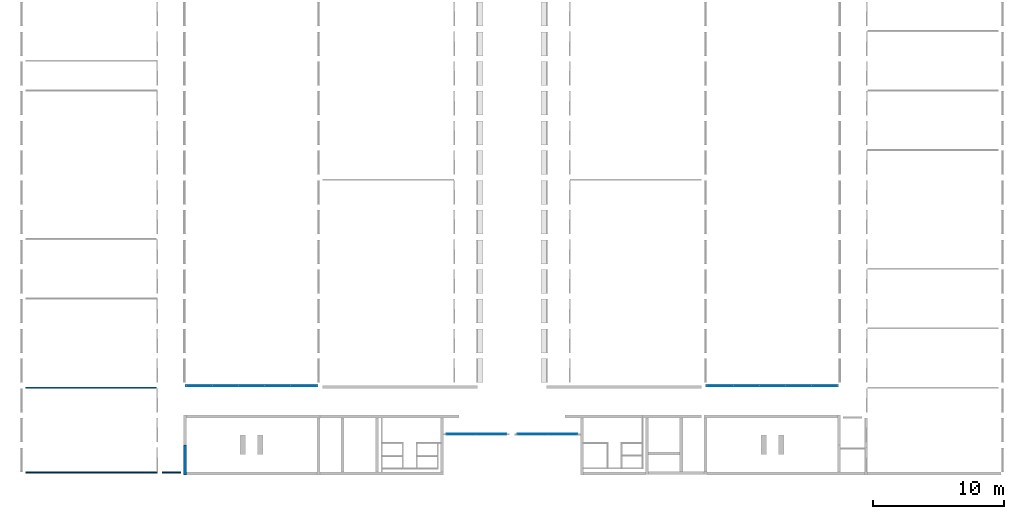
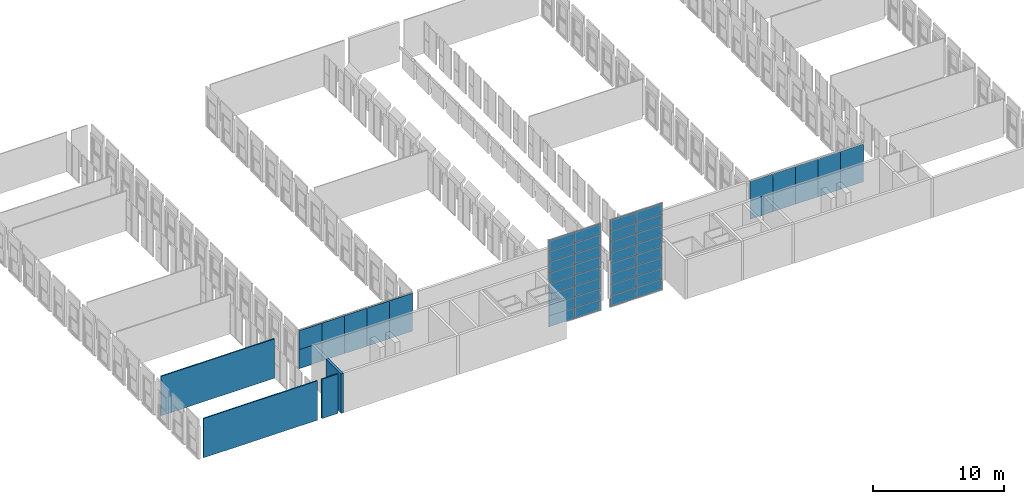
# One storey, part 6 of 16: 52 plates, 4 walls, 4 elements without a shape of their own.
"""IFC2X3 building model written with IfcOpenShell, lengths in millimetres."""

import ifcopenshell
import ifcopenshell.guid

model = None  # the IFC model being written
_history = None  # IfcOwnerHistory: only IFC2X3 demands one
_inside = {}  # id of a spatial element -> (the spatial element, [elements in it])
_under = {}  # id of a project, library or spatial element -> (it, [spatial elements below it])
_declared = {}  # id of a project -> (the project, [libraries it declares])
_typed = {}  # id of a type object -> (the type object, [elements of that type])
_made_of = {}  # id of a material, layer set ... -> (it, [elements and type objects made of it])


def new_model(schema):
    """Start an empty IFC model of exactly this schema.

    Asked for "IFC4X3", IfcOpenShell would pick the latest addendum, in which some entities
    have other attributes; the version numbers below select the first issue.
    IFC2X3 requires an IfcOwnerHistory on every rooted entity: one is made here for all.
    """
    global model, _history
    if schema == "IFC4X3":
        model = ifcopenshell.file(schema_version=(4, 3, 0, 0))
    else:
        model = ifcopenshell.file(schema=schema)
    _inside.clear()
    _under.clear()
    _declared.clear()
    _typed.clear()
    _made_of.clear()
    _history = None
    if model.schema == "IFC2X3":
        org = make("IfcOrganization", Name="unknown")
        user = make(
            "IfcPersonAndOrganization",
            ThePerson=make("IfcPerson", FamilyName="unknown"),
            TheOrganization=org,
        )
        app = make(
            "IfcApplication",
            ApplicationDeveloper=org,
            Version="unknown",
            ApplicationFullName="unknown",
            ApplicationIdentifier="unknown",
        )
        _history = make(
            "IfcOwnerHistory",
            OwningUser=user,
            OwningApplication=app,
            ChangeAction="ADDED",
            CreationDate=0,
        )
    return model


def make(cls, **values):
    """One entity of the class cls with the attributes given. An attribute that is None is left unset."""
    return model.create_entity(
        cls, **{name: value for name, value in values.items() if value is not None}
    )


def entity(cls, *values):
    """Any entity or typed value of the class cls, its attributes in the order of the schema. None: left unset."""
    e = model.create_entity(cls)
    for i, value in enumerate(values):
        if value is not None:
            e[i] = value
    return e


def rooted(cls, **values):
    """An entity with a GlobalId (a new one), such as an element, a storey or a relation."""
    return make(cls, GlobalId=ifcopenshell.guid.new(), OwnerHistory=_history, **values)


def si_unit(unit_type, name, prefix=None):
    """IfcSIUnit, for example si_unit("LENGTHUNIT", "METRE", prefix="MILLI")."""
    return make("IfcSIUnit", UnitType=unit_type, Prefix=prefix, Name=name)


def converted_unit(unit_type, name, factor, base, dimensions=None, offset=None):
    """IfcConversionBasedUnit, such as the inch: factor (a typed value) times the base unit."""
    return make(
        "IfcConversionBasedUnit"
        if offset is None
        else "IfcConversionBasedUnitWithOffset",
        ConversionOffset=offset,
        Dimensions=None
        if dimensions is None
        else entity("IfcDimensionalExponents", *dimensions),
        UnitType=unit_type,
        Name=name,
        ConversionFactor=make(
            "IfcMeasureWithUnit", ValueComponent=factor, UnitComponent=base
        ),
    )


def derived_unit(unit_type, elements):
    """IfcDerivedUnit: a product of units, each with its exponent."""
    return make(
        "IfcDerivedUnit",
        Elements=[
            make("IfcDerivedUnitElement", Unit=unit, Exponent=power)
            for unit, power in elements
        ],
        UnitType=unit_type,
    )


def assignment(units):
    """IfcUnitAssignment: the units of a project."""
    return None if units is None else make("IfcUnitAssignment", Units=units)


def point(xyz):
    """IfcCartesianPoint."""
    return None if xyz is None else make("IfcCartesianPoint", Coordinates=xyz)


def direction(xyz):
    """IfcDirection."""
    return None if xyz is None else make("IfcDirection", DirectionRatios=xyz)


def frame(location, z_axis=None, x_axis=None):
    """IfcAxis2Placement3D, a coordinate frame: its origin and axes. An axis left out is left unset."""
    return make(
        "IfcAxis2Placement3D",
        Location=point(location),
        Axis=direction(z_axis),
        RefDirection=direction(x_axis),
    )


def frame_2d(location, x_axis=None):
    """IfcAxis2Placement2D, a coordinate frame in the plane: its origin and x axis."""
    return make(
        "IfcAxis2Placement2D", Location=point(location), RefDirection=direction(x_axis)
    )


def origin():
    """The frame at (0, 0, 0) with its axes left unset."""
    return frame((0.0, 0.0, 0.0))


def origin_2d_with_axis():
    """The frame at (0, 0) in the plane with the x axis (1, 0) written out."""
    return frame_2d((0.0, 0.0), x_axis=(1.0, 0.0))


def place(relative_to, where):
    """IfcLocalPlacement: puts the frame where relative to a parent placement (None: the world)."""
    return make(
        "IfcLocalPlacement", PlacementRelTo=relative_to, RelativePlacement=where
    )


def context(
    kind, dimensions, precision=None, world=None, true_north=None, identifier=None
):
    """IfcGeometricRepresentationContext, for example the 3D "Model" context."""
    return make(
        "IfcGeometricRepresentationContext",
        ContextIdentifier=identifier,
        ContextType=kind,
        CoordinateSpaceDimension=dimensions,
        Precision=precision,
        WorldCoordinateSystem=world,
        TrueNorth=true_north,
    )


def subcontext(parent, identifier, kind, view, scale=None):
    """IfcGeometricRepresentationSubContext, for example "Body" below "Model"."""
    return make(
        "IfcGeometricRepresentationSubContext",
        ContextIdentifier=identifier,
        ContextType=kind,
        ParentContext=parent,
        TargetScale=scale,
        TargetView=view,
    )


def project(units=None, contexts=None):
    """IfcProject with its units and contexts."""
    return rooted(
        "IfcProject",
        Name="project",
        RepresentationContexts=contexts,
        UnitsInContext=assignment(units),
    )


def spatial(cls, under=None, at=None, **own):
    """A site, building, storey or space (cls), placed at a placement, below another one or the project."""
    s = rooted(cls, ObjectPlacement=at, **own)
    if under is not None:
        _under.setdefault(under.id(), (under, []))[1].append(s)
    return s


def profile(cls, at=None, kind="AREA", **sizes):
    """A parametric profile (cls). Its sizes go by their IFC names, for example OverallWidth=200.0."""
    return make(cls, ProfileType=kind, Position=at, **sizes)


def rectangle(**sizes):
    """IfcRectangleProfileDef."""
    return profile("IfcRectangleProfileDef", **sizes)


def extrude(swept, where, along, depth):
    """IfcExtrudedAreaSolid: the profile swept, set in the frame where, extruded along a direction by depth."""
    return make(
        "IfcExtrudedAreaSolid",
        SweptArea=swept,
        Position=where,
        ExtrudedDirection=direction(along),
        Depth=depth,
    )


def shape(context_of_items, identifier, shape_type, items):
    """IfcShapeRepresentation: the items that make up one representation, for example the "Body"."""
    return make(
        "IfcShapeRepresentation",
        ContextOfItems=context_of_items,
        RepresentationIdentifier=identifier,
        RepresentationType=shape_type,
        Items=items,
    )


def source(mapping_origin, context_of_items, identifier, shape_type, items):
    """IfcRepresentationMap: a shape defined once, which mapped items show again and again."""
    return make(
        "IfcRepresentationMap",
        MappingOrigin=mapping_origin,
        MappedRepresentation=shape(context_of_items, identifier, shape_type, items),
    )


def transform(
    local_origin,
    x_axis=None,
    y_axis=None,
    z_axis=None,
    scale=None,
    scale2=None,
    scale3=None,
    uniform=True,
):
    """IfcCartesianTransformationOperator3D, or its non-uniform kind. x_axis, y_axis, z_axis: its Axis1, 2, 3."""
    if uniform:
        return make(
            "IfcCartesianTransformationOperator3D",
            Axis1=direction(x_axis),
            Axis2=direction(y_axis),
            LocalOrigin=point(local_origin),
            Scale=scale,
            Axis3=direction(z_axis),
        )
    return make(
        "IfcCartesianTransformationOperator3DnonUniform",
        Axis1=direction(x_axis),
        Axis2=direction(y_axis),
        LocalOrigin=point(local_origin),
        Scale=scale,
        Axis3=direction(z_axis),
        Scale2=scale2,
        Scale3=scale3,
    )


def mapped(mapping_source, mapping_target):
    """IfcMappedItem: shows the shape of a source again, moved by a transform."""
    return make(
        "IfcMappedItem", MappingSource=mapping_source, MappingTarget=mapping_target
    )


def material(Name=None, Category=None):
    """IfcMaterial."""
    return make("IfcMaterial", Name=Name, Category=Category)


def layer(
    of_material, thickness, ventilated=None, Name=None, Category=None, Priority=None
):
    """IfcMaterialLayer: one layer of a wall or slab, of a material (None: an air gap)."""
    return make(
        "IfcMaterialLayer",
        Material=of_material,
        LayerThickness=thickness,
        IsVentilated=ventilated,
        Name=Name,
        Category=Category,
        Priority=Priority,
    )


def layer_set(layers, Name=None):
    """IfcMaterialLayerSet."""
    return make("IfcMaterialLayerSet", MaterialLayers=layers, LayerSetName=Name)


def layer_usage(for_layer_set, set_direction, sense, offset, extent=None):
    """IfcMaterialLayerSetUsage: how a layer set lies in its element."""
    return make(
        "IfcMaterialLayerSetUsage",
        ForLayerSet=for_layer_set,
        LayerSetDirection=set_direction,
        DirectionSense=sense,
        OffsetFromReferenceLine=offset,
        ReferenceExtent=extent,
    )


def made_of(thing, what):
    """Note that an element or type object is made of a material, layer set ...; save() writes the relation."""
    if what is not None:
        _made_of.setdefault(what.id(), (what, []))[1].append(thing)
    return thing


def type_object(cls, material=None, **own):
    """A type object (cls), such as IfcWallType, which elements share."""
    return made_of(rooted(cls, **own), material)


def type_shapes(of_type, sources):
    """Give a type object the sources (RepresentationMaps) that its elements show as mapped items."""
    of_type.RepresentationMaps = sources


def element(
    cls,
    number,
    at=None,
    inside=None,
    cuts=None,
    type_object=None,
    material=None,
    context=None,
    identifier="Body",
    shape_type=None,
    held_by="IfcProductDefinitionShape",
    body=None,
    shapes=None,
    **own,
):
    """One element of the class cls, such as IfcWall. Its Tag is "e" and its number.

    at: its placement. inside: the storey or other place that contains it. cuts: it is an
    opening in that element (IfcRelVoidsElement). A single representation is given by context,
    identifier, shape_type and body (its items); several are given by shapes. held_by: the class
    of the entity that holds the representations. save() writes the other relations.
    """
    e = rooted(cls, Tag="e%d" % number, ObjectPlacement=at, **own)
    if body is not None:
        shapes = [shape(context, identifier, shape_type, body)]
    if shapes is not None:
        e.Representation = make(held_by, Representations=shapes)
    if inside is not None:
        _inside.setdefault(inside.id(), (inside, []))[1].append(e)
    if cuts is not None:
        rooted(
            "IfcRelVoidsElement", RelatingBuildingElement=cuts, RelatedOpeningElement=e
        )
    if type_object is not None:
        _typed.setdefault(type_object.id(), (type_object, []))[1].append(e)
    return made_of(e, material)


def aggregate(whole, parts):
    """IfcRelAggregates: a whole, such as a stair, and the parts it consists of."""
    return rooted("IfcRelAggregates", RelatingObject=whole, RelatedObjects=parts)


def save(model, path):
    """Write the relations noted so far, then the file.

    IfcRelAggregates (storeys below a building ...), IfcRelContainedInSpatialStructure (elements
    in a storey), IfcRelDefinesByType, IfcRelAssociatesMaterial and IfcRelDeclares: one each for
    every whole, place, type object, material and project.
    """
    for whole, parts in _under.values():
        aggregate(whole, parts)
    for where, things in _inside.values():
        rooted(
            "IfcRelContainedInSpatialStructure",
            RelatedElements=things,
            RelatingStructure=where,
        )
    for kind, things in _typed.values():
        rooted("IfcRelDefinesByType", RelatedObjects=things, RelatingType=kind)
    for what, things in _made_of.values():
        rooted("IfcRelAssociatesMaterial", RelatedObjects=things, RelatingMaterial=what)
    for by, libraries in _declared.values():
        rooted("IfcRelDeclares", RelatingContext=by, RelatedDefinitions=libraries)
    model.write(path)


model = new_model("IFC2X3")

# Units and contexts
model_context = context("Model", 3, precision=0.01, world=origin(), true_north=direction((6.12303176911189e-17, 1.0)))
body_context = subcontext(model_context, "Body", "Model", "MODEL_VIEW")
ifc_project = project(units=[si_unit("LENGTHUNIT", "METRE", prefix="MILLI"), si_unit("AREAUNIT", "SQUARE_METRE"), si_unit("VOLUMEUNIT", "CUBIC_METRE"), converted_unit("PLANEANGLEUNIT", "DEGREE", entity("IfcRatioMeasure", 0.0174532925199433), si_unit("PLANEANGLEUNIT", "RADIAN"), dimensions=[0, 0, 0, 0, 0, 0, 0]), si_unit("MASSUNIT", "GRAM", prefix="KILO"), derived_unit("MASSDENSITYUNIT", [(si_unit("MASSUNIT", "GRAM", prefix="KILO"), 1), (si_unit("LENGTHUNIT", "METRE"), -3)]), derived_unit("MOMENTOFINERTIAUNIT", [(si_unit("LENGTHUNIT", "METRE"), 4)]), si_unit("TIMEUNIT", "SECOND"), si_unit("FREQUENCYUNIT", "HERTZ"), si_unit("THERMODYNAMICTEMPERATUREUNIT", "DEGREE_CELSIUS"), derived_unit("THERMALTRANSMITTANCEUNIT", [(si_unit("MASSUNIT", "GRAM", prefix="KILO"), 1), (si_unit("THERMODYNAMICTEMPERATUREUNIT", "KELVIN"), -1), (si_unit("TIMEUNIT", "SECOND"), -3)]), derived_unit("VOLUMETRICFLOWRATEUNIT", [(si_unit("LENGTHUNIT", "METRE"), 3), (si_unit("TIMEUNIT", "SECOND"), -1)]), si_unit("ELECTRICCURRENTUNIT", "AMPERE"), si_unit("ELECTRICVOLTAGEUNIT", "VOLT"), si_unit("POWERUNIT", "WATT"), si_unit("FORCEUNIT", "NEWTON", prefix="KILO"), si_unit("ILLUMINANCEUNIT", "LUX"), si_unit("LUMINOUSFLUXUNIT", "LUMEN"), si_unit("LUMINOUSINTENSITYUNIT", "CANDELA"), derived_unit("USERDEFINED", [(si_unit("MASSUNIT", "GRAM", prefix="KILO"), -1), (si_unit("LENGTHUNIT", "METRE"), -2), (si_unit("TIMEUNIT", "SECOND"), 3), (si_unit("LUMINOUSFLUXUNIT", "LUMEN"), 1)]), derived_unit("LINEARVELOCITYUNIT", [(si_unit("LENGTHUNIT", "METRE"), 1), (si_unit("TIMEUNIT", "SECOND"), -1)]), si_unit("PRESSUREUNIT", "PASCAL"), derived_unit("USERDEFINED", [(si_unit("LENGTHUNIT", "METRE"), -2), (si_unit("MASSUNIT", "GRAM", prefix="KILO"), 1), (si_unit("TIMEUNIT", "SECOND"), -2)]), derived_unit("LINEARFORCEUNIT", [(si_unit("MASSUNIT", "GRAM", prefix="KILO"), 1), (si_unit("LENGTHUNIT", "METRE"), 1), (si_unit("TIMEUNIT", "SECOND"), -2), (si_unit("LENGTHUNIT", "METRE"), -1)]), derived_unit("PLANARFORCEUNIT", [(si_unit("MASSUNIT", "GRAM", prefix="KILO"), 1), (si_unit("LENGTHUNIT", "METRE"), 1), (si_unit("TIMEUNIT", "SECOND"), -2), (si_unit("LENGTHUNIT", "METRE"), -2)])], contexts=[model_context])

# Site, building, storey
site_placement = place(None, frame((10627.5135316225, 21939.0796949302, 0.0)))
site = spatial("IfcSite", under=ifc_project, at=site_placement, Name="Default", CompositionType="ELEMENT")
building_placement = place(site_placement, origin())
building = spatial("IfcBuilding", under=site, at=building_placement, CompositionType="ELEMENT")
storey_placement = place(building_placement, frame((0.0, 0.0, 3660.0)))
storey = spatial("IfcBuildingStorey", under=building, at=storey_placement, Name="R+1", CompositionType="ELEMENT", Elevation=3660.0)

# Curtain wall, plates
curtain_wall_type = type_object("IfcCurtainWallType", Name="Curtain Wall:Curtain_Wall-Exterior_Glazing", PredefinedType="NOTDEFINED")
curtain_wall_1_placement = place(storey_placement, frame((0.0, 0.0, -3660.0)))
curtain_wall_1 = element("IfcCurtainWall", 1, at=curtain_wall_1_placement, inside=storey, type_object=curtain_wall_type, Name="Curtain Wall:Curtain_Wall-Exterior_Glazing", ObjectType="Curtain Wall:Curtain_Wall-Exterior_Glazing")
ifc_material_1 = material(Name="Glass")
plate_type_1 = type_object("IfcPlateType", Name="System Panel:Glazed", PredefinedType="CURTAIN_PANEL", material=ifc_material_1)
shared_shape_1 = source(origin(), body_context, "Body", "SweptSolid", [
    extrude(rectangle(XDim=25.0, YDim=1999.00000018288, at=origin_2d_with_axis()), frame((0.0, 37.0, 0.0), z_axis=(0.0, 0.0, 1.0), x_axis=(0.0, 1.0, 0.0)), (0.0, 0.0, 1.0), 1760.0),
])
type_shapes(plate_type_1, [shared_shape_1])
plate_1_placement = place(curtain_wall_1_placement, frame((10747.9864682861, -15159.0796949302, 3660.0), z_axis=(0.0, 0.0, 1.0), x_axis=(-1.0, 0.0, 0.0)))
plate_1 = element("IfcPlate", 2, at=plate_1_placement, type_object=plate_type_1, material=ifc_material_1, Name="System Panel:Glazed", ObjectType="System Panel:Glazed", context=body_context, shape_type="MappedRepresentation", body=[
    mapped(shared_shape_1, transform((0.0, 0.0, 0.0), scale=1.0)),
])
plate_2_placement = place(curtain_wall_1_placement, frame((2796.98646846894, -15159.0796949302, 3660.0), z_axis=(0.0, 0.0, 1.0), x_axis=(-1.0, 0.0, 0.0)))
plate_2 = element("IfcPlate", 3, at=plate_2_placement, type_object=plate_type_1, material=ifc_material_1, Name="System Panel:Glazed", ObjectType="System Panel:Glazed", context=body_context, shape_type="MappedRepresentation", body=[
    mapped(shared_shape_1, transform((0.0, 0.0, 0.0), scale=1.0)),
])
plate_3_placement = place(curtain_wall_1_placement, frame((10747.9864682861, -15159.0796949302, 5420.0), z_axis=(0.0, 0.0, 1.0), x_axis=(-1.0, 0.0, 0.0)))
plate_3 = element("IfcPlate", 4, at=plate_3_placement, type_object=plate_type_1, material=ifc_material_1, Name="System Panel:Glazed", ObjectType="System Panel:Glazed", context=body_context, shape_type="MappedRepresentation", body=[
    mapped(shared_shape_1, transform((0.0, 0.0, 0.0), scale=1.0)),
])
plate_4_placement = place(curtain_wall_1_placement, frame((2796.98646846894, -15159.0796949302, 5420.0), z_axis=(0.0, 0.0, 1.0), x_axis=(-1.0, 0.0, 0.0)))
plate_4 = element("IfcPlate", 5, at=plate_4_placement, type_object=plate_type_1, material=ifc_material_1, Name="System Panel:Glazed", ObjectType="System Panel:Glazed", context=body_context, shape_type="MappedRepresentation", body=[
    mapped(shared_shape_1, transform((0.0, 0.0, 0.0), scale=1.0)),
])
plate_type_2 = type_object("IfcPlateType", Name="System Panel:Glazed", PredefinedType="CURTAIN_PANEL", material=ifc_material_1)
shared_shape_2 = source(origin(), body_context, "Body", "SweptSolid", [
    extrude(rectangle(XDim=25.0, YDim=1983.99999987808, at=origin_2d_with_axis()), frame((0.0, 37.0, 0.0), z_axis=(0.0, 0.0, 1.0), x_axis=(0.0, 1.0, 0.0)), (0.0, 0.0, 1.0), 1760.0),
])
type_shapes(plate_type_2, [shared_shape_2])
plate_5_placement = place(curtain_wall_1_placement, frame((8756.48646825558, -15159.0796949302, 3660.0), z_axis=(0.0, 0.0, 1.0), x_axis=(-1.0, 0.0, 0.0)))
plate_5 = element("IfcPlate", 6, at=plate_5_placement, type_object=plate_type_2, material=ifc_material_1, Name="System Panel:Glazed", ObjectType="System Panel:Glazed", context=body_context, shape_type="MappedRepresentation", body=[
    mapped(shared_shape_2, transform((0.0, 0.0, 0.0), scale=1.0)),
])
plate_6_placement = place(curtain_wall_1_placement, frame((6772.4864683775, -15159.0796949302, 3660.0), z_axis=(0.0, 0.0, 1.0), x_axis=(-1.0, 0.0, 0.0)))
plate_6 = element("IfcPlate", 7, at=plate_6_placement, type_object=plate_type_2, material=ifc_material_1, Name="System Panel:Glazed", ObjectType="System Panel:Glazed", context=body_context, shape_type="MappedRepresentation", body=[
    mapped(shared_shape_2, transform((0.0, 0.0, 0.0), scale=1.0)),
])
plate_7_placement = place(curtain_wall_1_placement, frame((4788.48646849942, -15159.0796949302, 3660.0), z_axis=(0.0, 0.0, 1.0), x_axis=(-1.0, 0.0, 0.0)))
plate_7 = element("IfcPlate", 8, at=plate_7_placement, type_object=plate_type_2, material=ifc_material_1, Name="System Panel:Glazed", ObjectType="System Panel:Glazed", context=body_context, shape_type="MappedRepresentation", body=[
    mapped(shared_shape_2, transform((0.0, 0.0, 0.0), scale=1.0)),
])
plate_8_placement = place(curtain_wall_1_placement, frame((8756.48646825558, -15159.0796949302, 5420.0), z_axis=(0.0, 0.0, 1.0), x_axis=(-1.0, 0.0, 0.0)))
plate_8 = element("IfcPlate", 9, at=plate_8_placement, type_object=plate_type_2, material=ifc_material_1, Name="System Panel:Glazed", ObjectType="System Panel:Glazed", context=body_context, shape_type="MappedRepresentation", body=[
    mapped(shared_shape_2, transform((0.0, 0.0, 0.0), scale=1.0)),
])
plate_9_placement = place(curtain_wall_1_placement, frame((6772.4864683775, -15159.0796949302, 5420.0), z_axis=(0.0, 0.0, 1.0), x_axis=(-1.0, 0.0, 0.0)))
plate_9 = element("IfcPlate", 10, at=plate_9_placement, type_object=plate_type_2, material=ifc_material_1, Name="System Panel:Glazed", ObjectType="System Panel:Glazed", context=body_context, shape_type="MappedRepresentation", body=[
    mapped(shared_shape_2, transform((0.0, 0.0, 0.0), scale=1.0)),
])
plate_10_placement = place(curtain_wall_1_placement, frame((4788.48646849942, -15159.0796949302, 5420.0), z_axis=(0.0, 0.0, 1.0), x_axis=(-1.0, 0.0, 0.0)))
plate_10 = element("IfcPlate", 11, at=plate_10_placement, type_object=plate_type_2, material=ifc_material_1, Name="System Panel:Glazed", ObjectType="System Panel:Glazed", context=body_context, shape_type="MappedRepresentation", body=[
    mapped(shared_shape_2, transform((0.0, 0.0, 0.0), scale=1.0)),
])
aggregate(curtain_wall_1, [plate_1, plate_5, plate_6, plate_7, plate_2, plate_3, plate_8, plate_9, plate_10, plate_4])

curtain_wall_2_placement = place(storey_placement, frame((0.0, 0.0, -3660.0)))
curtain_wall_2 = element("IfcCurtainWall", 12, at=curtain_wall_2_placement, inside=storey, type_object=curtain_wall_type, Name="Curtain Wall:Curtain_Wall-Exterior_Glazing", ObjectType="Curtain Wall:Curtain_Wall-Exterior_Glazing")
plate_type_3 = type_object("IfcPlateType", Name="System Panel:Glazed", PredefinedType="CURTAIN_PANEL", material=ifc_material_1)
shared_shape_3 = source(origin(), body_context, "Body", "SweptSolid", [
    extrude(rectangle(XDim=25.0, YDim=1999.00000018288, at=frame_2d((2.66453525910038e-15, 0.0), x_axis=(1.0, 0.0))), frame((0.0, -37.0, 0.0), z_axis=(0.0, 0.0, 1.0), x_axis=(0.0, 1.0, 0.0)), (0.0, 0.0, 1.0), 1760.0),
])
type_shapes(plate_type_3, [shared_shape_3])
plate_11_placement = place(curtain_wall_2_placement, frame((42406.9864684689, -15159.0796949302, 3660.0)))
plate_11 = element("IfcPlate", 13, at=plate_11_placement, type_object=plate_type_3, material=ifc_material_1, Name="System Panel:Glazed", ObjectType="System Panel:Glazed", context=body_context, shape_type="MappedRepresentation", body=[
    mapped(shared_shape_3, transform((0.0, 0.0, 0.0), scale=1.0)),
])
plate_12_placement = place(curtain_wall_2_placement, frame((50357.986468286, -15159.0796949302, 3660.0)))
plate_12 = element("IfcPlate", 14, at=plate_12_placement, type_object=plate_type_3, material=ifc_material_1, Name="System Panel:Glazed", ObjectType="System Panel:Glazed", context=body_context, shape_type="MappedRepresentation", body=[
    mapped(shared_shape_3, transform((0.0, 0.0, 0.0), scale=1.0)),
])
plate_13_placement = place(curtain_wall_2_placement, frame((42406.9864684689, -15159.0796949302, 5420.0)))
plate_13 = element("IfcPlate", 15, at=plate_13_placement, type_object=plate_type_3, material=ifc_material_1, Name="System Panel:Glazed", ObjectType="System Panel:Glazed", context=body_context, shape_type="MappedRepresentation", body=[
    mapped(shared_shape_3, transform((0.0, 0.0, 0.0), scale=1.0)),
])
plate_14_placement = place(curtain_wall_2_placement, frame((50357.986468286, -15159.0796949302, 5420.0)))
plate_14 = element("IfcPlate", 16, at=plate_14_placement, type_object=plate_type_3, material=ifc_material_1, Name="System Panel:Glazed", ObjectType="System Panel:Glazed", context=body_context, shape_type="MappedRepresentation", body=[
    mapped(shared_shape_3, transform((0.0, 0.0, 0.0), scale=1.0)),
])
plate_type_4 = type_object("IfcPlateType", Name="System Panel:Glazed", PredefinedType="CURTAIN_PANEL", material=ifc_material_1)
shared_shape_4 = source(origin(), body_context, "Body", "SweptSolid", [
    extrude(rectangle(XDim=25.0, YDim=1983.99999987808, at=frame_2d((2.66453525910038e-15, 0.0), x_axis=(1.0, 0.0))), frame((0.0, -37.0, 0.0), z_axis=(0.0, 0.0, 1.0), x_axis=(0.0, 1.0, 0.0)), (0.0, 0.0, 1.0), 1760.0),
])
type_shapes(plate_type_4, [shared_shape_4])
plate_15_placement = place(curtain_wall_2_placement, frame((44398.4864684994, -15159.0796949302, 3660.0)))
plate_15 = element("IfcPlate", 17, at=plate_15_placement, type_object=plate_type_4, material=ifc_material_1, Name="System Panel:Glazed", ObjectType="System Panel:Glazed", context=body_context, shape_type="MappedRepresentation", body=[
    mapped(shared_shape_4, transform((0.0, 0.0, 0.0), scale=1.0)),
])
plate_16_placement = place(curtain_wall_2_placement, frame((46382.4864683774, -15159.0796949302, 3660.0)))
plate_16 = element("IfcPlate", 18, at=plate_16_placement, type_object=plate_type_4, material=ifc_material_1, Name="System Panel:Glazed", ObjectType="System Panel:Glazed", context=body_context, shape_type="MappedRepresentation", body=[
    mapped(shared_shape_4, transform((0.0, 0.0, 0.0), scale=1.0)),
])
plate_17_placement = place(curtain_wall_2_placement, frame((48366.4864682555, -15159.0796949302, 3660.0)))
plate_17 = element("IfcPlate", 19, at=plate_17_placement, type_object=plate_type_4, material=ifc_material_1, Name="System Panel:Glazed", ObjectType="System Panel:Glazed", context=body_context, shape_type="MappedRepresentation", body=[
    mapped(shared_shape_4, transform((0.0, 0.0, 0.0), scale=1.0)),
])
plate_18_placement = place(curtain_wall_2_placement, frame((44398.4864684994, -15159.0796949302, 5420.0)))
plate_18 = element("IfcPlate", 20, at=plate_18_placement, type_object=plate_type_4, material=ifc_material_1, Name="System Panel:Glazed", ObjectType="System Panel:Glazed", context=body_context, shape_type="MappedRepresentation", body=[
    mapped(shared_shape_4, transform((0.0, 0.0, 0.0), scale=1.0)),
])
plate_19_placement = place(curtain_wall_2_placement, frame((46382.4864683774, -15159.0796949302, 5420.0)))
plate_19 = element("IfcPlate", 21, at=plate_19_placement, type_object=plate_type_4, material=ifc_material_1, Name="System Panel:Glazed", ObjectType="System Panel:Glazed", context=body_context, shape_type="MappedRepresentation", body=[
    mapped(shared_shape_4, transform((0.0, 0.0, 0.0), scale=1.0)),
])
plate_20_placement = place(curtain_wall_2_placement, frame((48366.4864682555, -15159.0796949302, 5420.0)))
plate_20 = element("IfcPlate", 22, at=plate_20_placement, type_object=plate_type_4, material=ifc_material_1, Name="System Panel:Glazed", ObjectType="System Panel:Glazed", context=body_context, shape_type="MappedRepresentation", body=[
    mapped(shared_shape_4, transform((0.0, 0.0, 0.0), scale=1.0)),
])
aggregate(curtain_wall_2, [plate_11, plate_15, plate_16, plate_17, plate_12, plate_13, plate_18, plate_19, plate_20, plate_14])

curtain_wall_3_placement = place(storey_placement, frame((0.0, 0.0, -3660.0)))
curtain_wall_3 = element("IfcCurtainWall", 23, at=curtain_wall_3_placement, inside=storey, type_object=curtain_wall_type, Name="Curtain Wall:Curtain_Wall-Exterior_Glazing", ObjectType="Curtain Wall:Curtain_Wall-Exterior_Glazing")
plate_type_5 = type_object("IfcPlateType", Name="System Panel:Glazed", PredefinedType="CURTAIN_PANEL", material=ifc_material_1)
shared_shape_5 = source(origin(), body_context, "Body", "SweptSolid", [
    extrude(rectangle(XDim=25.0, YDim=2260.0, at=origin_2d_with_axis()), frame((0.0, 37.0, 0.0), z_axis=(0.0, 0.0, 1.0), x_axis=(0.0, 1.0, 0.0)), (0.0, 0.0, 1.0), 1015.53377118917),
])
type_shapes(plate_type_5, [shared_shape_5])
plate_21_placement = place(curtain_wall_3_placement, frame((22746.4616023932, -18895.8331484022, 2815.72983048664)))
plate_21 = element("IfcPlate", 24, at=plate_21_placement, type_object=plate_type_5, material=ifc_material_1, Name="System Panel:Glazed", ObjectType="System Panel:Glazed", context=body_context, shape_type="MappedRepresentation", body=[
    mapped(shared_shape_5, transform((0.0, 0.0, 0.0), scale=1.0)),
])
plate_22_placement = place(curtain_wall_3_placement, frame((25006.4616023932, -18895.8331484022, 2815.72983048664)))
plate_22 = element("IfcPlate", 25, at=plate_22_placement, type_object=plate_type_5, material=ifc_material_1, Name="System Panel:Glazed", ObjectType="System Panel:Glazed", context=body_context, shape_type="MappedRepresentation", body=[
    mapped(shared_shape_5, transform((0.0, 0.0, 0.0), scale=1.0)),
])
plate_23_placement = place(curtain_wall_3_placement, frame((22746.4616023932, -18895.8331484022, 9834.46622881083)))
plate_23 = element("IfcPlate", 26, at=plate_23_placement, type_object=plate_type_5, material=ifc_material_1, Name="System Panel:Glazed", ObjectType="System Panel:Glazed", context=body_context, shape_type="MappedRepresentation", body=[
    mapped(shared_shape_5, transform((0.0, 0.0, 0.0), scale=1.0)),
])
plate_24_placement = place(curtain_wall_3_placement, frame((25006.4616023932, -18895.8331484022, 9834.46622881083)))
plate_24 = element("IfcPlate", 27, at=plate_24_placement, type_object=plate_type_5, material=ifc_material_1, Name="System Panel:Glazed", ObjectType="System Panel:Glazed", context=body_context, shape_type="MappedRepresentation", body=[
    mapped(shared_shape_5, transform((0.0, 0.0, 0.0), scale=1.0)),
])
plate_type_6 = type_object("IfcPlateType", Name="System Panel:Glazed", PredefinedType="CURTAIN_PANEL", material=ifc_material_1)
shared_shape_6 = source(origin(), body_context, "Body", "SweptSolid", [
    extrude(rectangle(XDim=25.0, YDim=2260.0, at=origin_2d_with_axis()), frame((0.0, 37.0, 0.0), z_axis=(0.0, 0.0, 1.0), x_axis=(0.0, 1.0, 0.0)), (0.0, 0.0, 1.0), 1000.53377118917),
])
type_shapes(plate_type_6, [shared_shape_6])
plate_25_placement = place(curtain_wall_3_placement, frame((22746.4616023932, -18895.8331484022, 3831.26360167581)))
plate_25 = element("IfcPlate", 28, at=plate_25_placement, type_object=plate_type_6, material=ifc_material_1, Name="System Panel:Glazed", ObjectType="System Panel:Glazed", context=body_context, shape_type="MappedRepresentation", body=[
    mapped(shared_shape_6, transform((0.0, 0.0, 0.0), scale=1.0)),
])
plate_26_placement = place(curtain_wall_3_placement, frame((25006.4616023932, -18895.8331484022, 3831.26360167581)))
plate_26 = element("IfcPlate", 29, at=plate_26_placement, type_object=plate_type_6, material=ifc_material_1, Name="System Panel:Glazed", ObjectType="System Panel:Glazed", context=body_context, shape_type="MappedRepresentation", body=[
    mapped(shared_shape_6, transform((0.0, 0.0, 0.0), scale=1.0)),
])
plate_27_placement = place(curtain_wall_3_placement, frame((22746.4616023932, -18895.8331484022, 4831.79737286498)))
plate_27 = element("IfcPlate", 30, at=plate_27_placement, type_object=plate_type_6, material=ifc_material_1, Name="System Panel:Glazed", ObjectType="System Panel:Glazed", context=body_context, shape_type="MappedRepresentation", body=[
    mapped(shared_shape_6, transform((0.0, 0.0, 0.0), scale=1.0)),
])
plate_28_placement = place(curtain_wall_3_placement, frame((25006.4616023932, -18895.8331484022, 4831.79737286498)))
plate_28 = element("IfcPlate", 31, at=plate_28_placement, type_object=plate_type_6, material=ifc_material_1, Name="System Panel:Glazed", ObjectType="System Panel:Glazed", context=body_context, shape_type="MappedRepresentation", body=[
    mapped(shared_shape_6, transform((0.0, 0.0, 0.0), scale=1.0)),
])
plate_29_placement = place(curtain_wall_3_placement, frame((22746.4616023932, -18895.8331484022, 5832.33114405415)))
plate_29 = element("IfcPlate", 32, at=plate_29_placement, type_object=plate_type_6, material=ifc_material_1, Name="System Panel:Glazed", ObjectType="System Panel:Glazed", context=body_context, shape_type="MappedRepresentation", body=[
    mapped(shared_shape_6, transform((0.0, 0.0, 0.0), scale=1.0)),
])
plate_30_placement = place(curtain_wall_3_placement, frame((25006.4616023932, -18895.8331484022, 5832.33114405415)))
plate_30 = element("IfcPlate", 33, at=plate_30_placement, type_object=plate_type_6, material=ifc_material_1, Name="System Panel:Glazed", ObjectType="System Panel:Glazed", context=body_context, shape_type="MappedRepresentation", body=[
    mapped(shared_shape_6, transform((0.0, 0.0, 0.0), scale=1.0)),
])
plate_31_placement = place(curtain_wall_3_placement, frame((22746.4616023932, -18895.8331484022, 6832.86491524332)))
plate_31 = element("IfcPlate", 34, at=plate_31_placement, type_object=plate_type_6, material=ifc_material_1, Name="System Panel:Glazed", ObjectType="System Panel:Glazed", context=body_context, shape_type="MappedRepresentation", body=[
    mapped(shared_shape_6, transform((0.0, 0.0, 0.0), scale=1.0)),
])
plate_32_placement = place(curtain_wall_3_placement, frame((25006.4616023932, -18895.8331484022, 6832.86491524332)))
plate_32 = element("IfcPlate", 35, at=plate_32_placement, type_object=plate_type_6, material=ifc_material_1, Name="System Panel:Glazed", ObjectType="System Panel:Glazed", context=body_context, shape_type="MappedRepresentation", body=[
    mapped(shared_shape_6, transform((0.0, 0.0, 0.0), scale=1.0)),
])
plate_33_placement = place(curtain_wall_3_placement, frame((22746.4616023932, -18895.8331484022, 7833.39868643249)))
plate_33 = element("IfcPlate", 36, at=plate_33_placement, type_object=plate_type_6, material=ifc_material_1, Name="System Panel:Glazed", ObjectType="System Panel:Glazed", context=body_context, shape_type="MappedRepresentation", body=[
    mapped(shared_shape_6, transform((0.0, 0.0, 0.0), scale=1.0)),
])
plate_34_placement = place(curtain_wall_3_placement, frame((25006.4616023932, -18895.8331484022, 7833.39868643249)))
plate_34 = element("IfcPlate", 37, at=plate_34_placement, type_object=plate_type_6, material=ifc_material_1, Name="System Panel:Glazed", ObjectType="System Panel:Glazed", context=body_context, shape_type="MappedRepresentation", body=[
    mapped(shared_shape_6, transform((0.0, 0.0, 0.0), scale=1.0)),
])
plate_35_placement = place(curtain_wall_3_placement, frame((22746.4616023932, -18895.8331484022, 8833.93245762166)))
plate_35 = element("IfcPlate", 38, at=plate_35_placement, type_object=plate_type_6, material=ifc_material_1, Name="System Panel:Glazed", ObjectType="System Panel:Glazed", context=body_context, shape_type="MappedRepresentation", body=[
    mapped(shared_shape_6, transform((0.0, 0.0, 0.0), scale=1.0)),
])
plate_36_placement = place(curtain_wall_3_placement, frame((25006.4616023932, -18895.8331484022, 8833.93245762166)))
plate_36 = element("IfcPlate", 39, at=plate_36_placement, type_object=plate_type_6, material=ifc_material_1, Name="System Panel:Glazed", ObjectType="System Panel:Glazed", context=body_context, shape_type="MappedRepresentation", body=[
    mapped(shared_shape_6, transform((0.0, 0.0, 0.0), scale=1.0)),
])
aggregate(curtain_wall_3, [plate_21, plate_22, plate_25, plate_26, plate_27, plate_28, plate_29, plate_30, plate_31, plate_32, plate_33, plate_34, plate_35, plate_36, plate_23, plate_24])

curtain_wall_4_placement = place(storey_placement, frame((0.0, 0.0, -3660.0)))
curtain_wall_4 = element("IfcCurtainWall", 40, at=curtain_wall_4_placement, inside=storey, type_object=curtain_wall_type, Name="Curtain Wall:Curtain_Wall-Exterior_Glazing", ObjectType="Curtain Wall:Curtain_Wall-Exterior_Glazing")
plate_type_7 = type_object("IfcPlateType", Name="System Panel:Glazed", PredefinedType="CURTAIN_PANEL", material=ifc_material_1)
shared_shape_7 = source(origin(), body_context, "Body", "SweptSolid", [
    extrude(rectangle(XDim=25.0, YDim=2260.0, at=frame_2d((2.66453525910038e-15, 0.0), x_axis=(1.0, 0.0))), frame((0.0, -37.0, 0.0), z_axis=(0.0, 0.0, 1.0), x_axis=(0.0, 1.0, 0.0)), (0.0, 0.0, 1.0), 1015.53377118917),
])
type_shapes(plate_type_7, [shared_shape_7])
plate_37_placement = place(curtain_wall_4_placement, frame((30408.5113343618, -18895.8331484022, 2815.72983048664), z_axis=(0.0, 0.0, 1.0), x_axis=(-1.0, 0.0, 0.0)))
plate_37 = element("IfcPlate", 41, at=plate_37_placement, type_object=plate_type_7, material=ifc_material_1, Name="System Panel:Glazed", ObjectType="System Panel:Glazed", context=body_context, shape_type="MappedRepresentation", body=[
    mapped(shared_shape_7, transform((0.0, 0.0, 0.0), scale=1.0)),
])
plate_38_placement = place(curtain_wall_4_placement, frame((28148.5113343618, -18895.8331484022, 2815.72983048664), z_axis=(0.0, 0.0, 1.0), x_axis=(-1.0, 0.0, 0.0)))
plate_38 = element("IfcPlate", 42, at=plate_38_placement, type_object=plate_type_7, material=ifc_material_1, Name="System Panel:Glazed", ObjectType="System Panel:Glazed", context=body_context, shape_type="MappedRepresentation", body=[
    mapped(shared_shape_7, transform((0.0, 0.0, 0.0), scale=1.0)),
])
plate_39_placement = place(curtain_wall_4_placement, frame((30408.5113343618, -18895.8331484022, 9834.46622881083), z_axis=(0.0, 0.0, 1.0), x_axis=(-1.0, 0.0, 0.0)))
plate_39 = element("IfcPlate", 43, at=plate_39_placement, type_object=plate_type_7, material=ifc_material_1, Name="System Panel:Glazed", ObjectType="System Panel:Glazed", context=body_context, shape_type="MappedRepresentation", body=[
    mapped(shared_shape_7, transform((0.0, 0.0, 0.0), scale=1.0)),
])
plate_40_placement = place(curtain_wall_4_placement, frame((28148.5113343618, -18895.8331484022, 9834.46622881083), z_axis=(0.0, 0.0, 1.0), x_axis=(-1.0, 0.0, 0.0)))
plate_40 = element("IfcPlate", 44, at=plate_40_placement, type_object=plate_type_7, material=ifc_material_1, Name="System Panel:Glazed", ObjectType="System Panel:Glazed", context=body_context, shape_type="MappedRepresentation", body=[
    mapped(shared_shape_7, transform((0.0, 0.0, 0.0), scale=1.0)),
])
plate_type_8 = type_object("IfcPlateType", Name="System Panel:Glazed", PredefinedType="CURTAIN_PANEL", material=ifc_material_1)
shared_shape_8 = source(origin(), body_context, "Body", "SweptSolid", [
    extrude(rectangle(XDim=25.0, YDim=2260.0, at=frame_2d((2.66453525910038e-15, 0.0), x_axis=(1.0, 0.0))), frame((0.0, -37.0, 0.0), z_axis=(0.0, 0.0, 1.0), x_axis=(0.0, 1.0, 0.0)), (0.0, 0.0, 1.0), 1000.53377118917),
])
type_shapes(plate_type_8, [shared_shape_8])
plate_41_placement = place(curtain_wall_4_placement, frame((30408.5113343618, -18895.8331484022, 3831.26360167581), z_axis=(0.0, 0.0, 1.0), x_axis=(-1.0, 0.0, 0.0)))
plate_41 = element("IfcPlate", 45, at=plate_41_placement, type_object=plate_type_8, material=ifc_material_1, Name="System Panel:Glazed", ObjectType="System Panel:Glazed", context=body_context, shape_type="MappedRepresentation", body=[
    mapped(shared_shape_8, transform((0.0, 0.0, 0.0), scale=1.0)),
])
plate_42_placement = place(curtain_wall_4_placement, frame((28148.5113343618, -18895.8331484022, 3831.26360167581), z_axis=(0.0, 0.0, 1.0), x_axis=(-1.0, 0.0, 0.0)))
plate_42 = element("IfcPlate", 46, at=plate_42_placement, type_object=plate_type_8, material=ifc_material_1, Name="System Panel:Glazed", ObjectType="System Panel:Glazed", context=body_context, shape_type="MappedRepresentation", body=[
    mapped(shared_shape_8, transform((0.0, 0.0, 0.0), scale=1.0)),
])
plate_43_placement = place(curtain_wall_4_placement, frame((30408.5113343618, -18895.8331484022, 4831.79737286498), z_axis=(0.0, 0.0, 1.0), x_axis=(-1.0, 0.0, 0.0)))
plate_43 = element("IfcPlate", 47, at=plate_43_placement, type_object=plate_type_8, material=ifc_material_1, Name="System Panel:Glazed", ObjectType="System Panel:Glazed", context=body_context, shape_type="MappedRepresentation", body=[
    mapped(shared_shape_8, transform((0.0, 0.0, 0.0), scale=1.0)),
])
plate_44_placement = place(curtain_wall_4_placement, frame((28148.5113343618, -18895.8331484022, 4831.79737286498), z_axis=(0.0, 0.0, 1.0), x_axis=(-1.0, 0.0, 0.0)))
plate_44 = element("IfcPlate", 48, at=plate_44_placement, type_object=plate_type_8, material=ifc_material_1, Name="System Panel:Glazed", ObjectType="System Panel:Glazed", context=body_context, shape_type="MappedRepresentation", body=[
    mapped(shared_shape_8, transform((0.0, 0.0, 0.0), scale=1.0)),
])
plate_45_placement = place(curtain_wall_4_placement, frame((30408.5113343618, -18895.8331484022, 5832.33114405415), z_axis=(0.0, 0.0, 1.0), x_axis=(-1.0, 0.0, 0.0)))
plate_45 = element("IfcPlate", 49, at=plate_45_placement, type_object=plate_type_8, material=ifc_material_1, Name="System Panel:Glazed", ObjectType="System Panel:Glazed", context=body_context, shape_type="MappedRepresentation", body=[
    mapped(shared_shape_8, transform((0.0, 0.0, 0.0), scale=1.0)),
])
plate_46_placement = place(curtain_wall_4_placement, frame((28148.5113343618, -18895.8331484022, 5832.33114405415), z_axis=(0.0, 0.0, 1.0), x_axis=(-1.0, 0.0, 0.0)))
plate_46 = element("IfcPlate", 50, at=plate_46_placement, type_object=plate_type_8, material=ifc_material_1, Name="System Panel:Glazed", ObjectType="System Panel:Glazed", context=body_context, shape_type="MappedRepresentation", body=[
    mapped(shared_shape_8, transform((0.0, 0.0, 0.0), scale=1.0)),
])
plate_47_placement = place(curtain_wall_4_placement, frame((30408.5113343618, -18895.8331484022, 6832.86491524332), z_axis=(0.0, 0.0, 1.0), x_axis=(-1.0, 0.0, 0.0)))
plate_47 = element("IfcPlate", 51, at=plate_47_placement, type_object=plate_type_8, material=ifc_material_1, Name="System Panel:Glazed", ObjectType="System Panel:Glazed", context=body_context, shape_type="MappedRepresentation", body=[
    mapped(shared_shape_8, transform((0.0, 0.0, 0.0), scale=1.0)),
])
plate_48_placement = place(curtain_wall_4_placement, frame((28148.5113343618, -18895.8331484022, 6832.86491524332), z_axis=(0.0, 0.0, 1.0), x_axis=(-1.0, 0.0, 0.0)))
plate_48 = element("IfcPlate", 52, at=plate_48_placement, type_object=plate_type_8, material=ifc_material_1, Name="System Panel:Glazed", ObjectType="System Panel:Glazed", context=body_context, shape_type="MappedRepresentation", body=[
    mapped(shared_shape_8, transform((0.0, 0.0, 0.0), scale=1.0)),
])
plate_49_placement = place(curtain_wall_4_placement, frame((30408.5113343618, -18895.8331484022, 7833.39868643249), z_axis=(0.0, 0.0, 1.0), x_axis=(-1.0, 0.0, 0.0)))
plate_49 = element("IfcPlate", 53, at=plate_49_placement, type_object=plate_type_8, material=ifc_material_1, Name="System Panel:Glazed", ObjectType="System Panel:Glazed", context=body_context, shape_type="MappedRepresentation", body=[
    mapped(shared_shape_8, transform((0.0, 0.0, 0.0), scale=1.0)),
])
plate_50_placement = place(curtain_wall_4_placement, frame((28148.5113343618, -18895.8331484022, 7833.39868643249), z_axis=(0.0, 0.0, 1.0), x_axis=(-1.0, 0.0, 0.0)))
plate_50 = element("IfcPlate", 54, at=plate_50_placement, type_object=plate_type_8, material=ifc_material_1, Name="System Panel:Glazed", ObjectType="System Panel:Glazed", context=body_context, shape_type="MappedRepresentation", body=[
    mapped(shared_shape_8, transform((0.0, 0.0, 0.0), scale=1.0)),
])
plate_51_placement = place(curtain_wall_4_placement, frame((30408.5113343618, -18895.8331484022, 8833.93245762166), z_axis=(0.0, 0.0, 1.0), x_axis=(-1.0, 0.0, 0.0)))
plate_51 = element("IfcPlate", 55, at=plate_51_placement, type_object=plate_type_8, material=ifc_material_1, Name="System Panel:Glazed", ObjectType="System Panel:Glazed", context=body_context, shape_type="MappedRepresentation", body=[
    mapped(shared_shape_8, transform((0.0, 0.0, 0.0), scale=1.0)),
])
plate_52_placement = place(curtain_wall_4_placement, frame((28148.5113343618, -18895.8331484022, 8833.93245762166), z_axis=(0.0, 0.0, 1.0), x_axis=(-1.0, 0.0, 0.0)))
plate_52 = element("IfcPlate", 56, at=plate_52_placement, type_object=plate_type_8, material=ifc_material_1, Name="System Panel:Glazed", ObjectType="System Panel:Glazed", context=body_context, shape_type="MappedRepresentation", body=[
    mapped(shared_shape_8, transform((0.0, 0.0, 0.0), scale=1.0)),
])
aggregate(curtain_wall_4, [plate_37, plate_38, plate_41, plate_42, plate_43, plate_44, plate_45, plate_46, plate_47, plate_48, plate_49, plate_50, plate_51, plate_52, plate_39, plate_40])

# Walls
ifc_material_2 = material(Name="Paint - White Lining")
ifc_layer_1 = layer(ifc_material_2, 3.0)
ifc_material_3 = material(Name="Concrete Masonry Units")
ifc_layer_2 = layer(ifc_material_3, 94.0)
ifc_layer_3 = layer(ifc_material_2, 3.0)
ifc_layer_set_1 = layer_set([ifc_layer_1, ifc_layer_2, ifc_layer_3], Name="Basic Wall:Wall-Int 100")
ifc_layer_usage_1 = layer_usage(ifc_layer_set_1, "AXIS2", "POSITIVE", -50.0)
wall_type_1 = type_object("IfcWallType", Name="Basic Wall:Wall-Int 100", PredefinedType="STANDARD", material=ifc_layer_set_1)
wall_1_placement = place(storey_placement, frame((-10417.1535359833, -15324.3072531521, 0.0)))
element("IfcWallStandardCase", 57, at=wall_1_placement, inside=storey, type_object=wall_type_1, material=ifc_layer_usage_1, Name="Basic Wall:Wall-Int 100", ObjectType="Basic Wall:Wall-Int 100", context=body_context, shape_type="SweptSolid", body=[
    extrude(rectangle(XDim=9954.64000436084, YDim=99.9999999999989, at=frame_2d((4977.32000218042, 0.0), x_axis=(-1.0, 0.0))), origin(), (0.0, 0.0, 1.0), 3660.0),
])
ifc_layer_usage_2 = layer_usage(ifc_layer_set_1, "AXIS2", "NEGATIVE", 50.0)
wall_2_placement = place(storey_placement, frame((-10417.1535359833, -21774.3072446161, 0.0)))
element("IfcWallStandardCase", 58, at=wall_2_placement, inside=storey, type_object=wall_type_1, material=ifc_layer_usage_2, Name="Basic Wall:Wall-Int 100", ObjectType="Basic Wall:Wall-Int 100", context=body_context, shape_type="SweptSolid", body=[
    extrude(rectangle(XDim=10006.6400043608, YDim=100.000000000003, at=frame_2d((5003.32000218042, 4.2632564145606e-14), x_axis=(-1.0, 0.0))), origin(), (0.0, 0.0, 1.0), 3660.0),
])
ifc_layer_usage_3 = layer_usage(ifc_layer_set_1, "AXIS2", "NEGATIVE", 50.0)
wall_3_placement = place(storey_placement, frame((-32.5135316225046, -21774.0796949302, 0.0)))
element("IfcWallStandardCase", 59, at=wall_3_placement, inside=storey, type_object=wall_type_1, material=ifc_layer_usage_3, Name="Basic Wall:Wall-Int 100", ObjectType="Basic Wall:Wall-Int 100", context=body_context, shape_type="SweptSolid", body=[
    extrude(rectangle(XDim=1402.0, YDim=100.000000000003, at=frame_2d((701.0, 0.0), x_axis=(-1.0, 0.0))), origin(), (0.0, 0.0, 1.0), 3660.0),
])
ifc_layer_4 = layer(ifc_material_2, 15.0)
ifc_material_4 = material(Name="Concrete - Precast Concrete - 35 MPa")
ifc_layer_5 = layer(ifc_material_4, 200.0)
ifc_layer_6 = layer(ifc_material_2, 15.0)
ifc_layer_set_2 = layer_set([ifc_layer_4, ifc_layer_5, ifc_layer_6], Name="Basic Wall:Mur200PentureBlanche 2")
ifc_layer_usage_4 = layer_usage(ifc_layer_set_2, "AXIS2", "NEGATIVE", 115.0)
wall_type_2 = type_object("IfcWallType", Name="Basic Wall:Mur200PentureBlanche 2", PredefinedType="STANDARD", material=ifc_layer_set_2)
wall_4_placement = place(storey_placement, frame((1697.48646837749, -21954.0796949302, 0.0), z_axis=(0.0, 0.0, 1.0), x_axis=(0.0, 1.0, 0.0)))
element("IfcWallStandardCase", 60, at=wall_4_placement, inside=storey, type_object=wall_type_2, material=ifc_layer_usage_4, Name="Basic Wall:Mur200PentureBlanche 2", ObjectType="Basic Wall:Mur200PentureBlanche 2", context=body_context, shape_type="SweptSolid", body=[
    extrude(rectangle(XDim=2275.0, YDim=230.0, at=frame_2d((1137.5, -4.2632564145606e-14), x_axis=(-1.0, 0.0))), origin(), (0.0, 0.0, 1.0), 3660.0),
])

save(model, "model.ifc")
